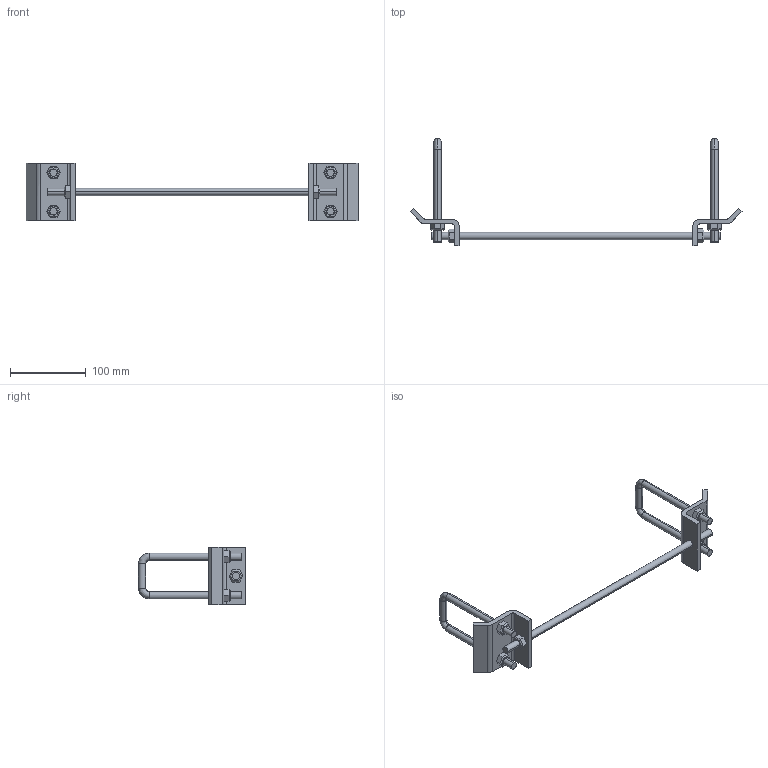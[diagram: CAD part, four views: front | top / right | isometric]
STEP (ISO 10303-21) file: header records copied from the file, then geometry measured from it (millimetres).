
FILE_DESCRIPTION(('TurboCAD Mac Pro'),'Build 980');
FILE_NAME('P2868A-15.stp',' ',(''),(''),'ACIS Interop','IMSI','TurboCAD Mac Pro BY IMSI, INCORPORATED');
FILE_SCHEMA(('automotive_design'));
Length unit declared in the file: inch
Products named in the file (11): 1; 2; 3; 4; 5; 6; 7; 8; 9; 10; 11
Bounding box: 437.6 x 141.31 x 76.2 mm (x, y, z)
Volume: 166176.5 mm3; surface area: 69229.4 mm2
Topology: 11 solids, 11 shells, 176 faces, 410 edges, 256 vertices
Faces by surface type: plane 110, bspline 40, cylinder 26
Entity records: 9060 total; most frequent: CARTESIAN_POINT 1837, ORIENTED_EDGE 820, DIRECTION 692, STYLED_ITEM 533, PRESENTATION_STYLE_ASSIGNMENT 533, COLOUR_RGB 533, EDGE_CURVE 410, CURVE_STYLE 346
